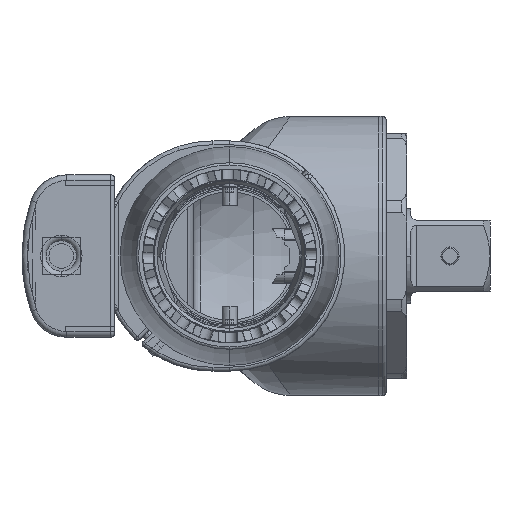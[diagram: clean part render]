
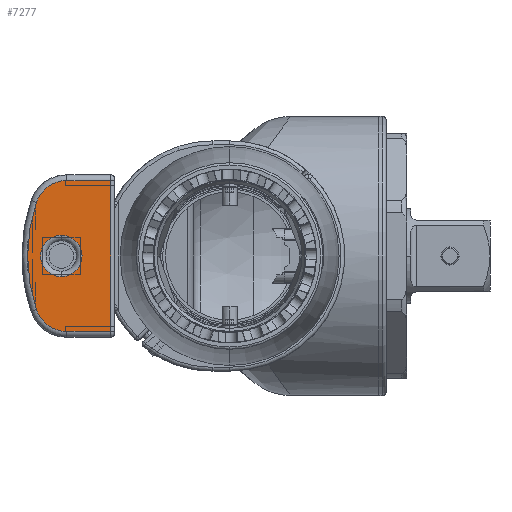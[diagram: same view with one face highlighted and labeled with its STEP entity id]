
A CAD part, left-side view. The second image highlights one B-rep face of the part: STEP entity #7277.
In plain terms, the highlighted planar face has unit normal (-1, 0, 0).
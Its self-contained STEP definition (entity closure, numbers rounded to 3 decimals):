
#7157 = VERTEX_POINT ( 'NONE', #18169 ) ;
#7159 = EDGE_CURVE ( 'NONE', #7160, #7157, #18168, .T. ) ;
#7160 = VERTEX_POINT ( 'NONE', #18163 ) ;
#7170 = VERTEX_POINT ( 'NONE', #18219 ) ;
#7172 = EDGE_CURVE ( 'NONE', #7188, #7170, #18217, .T. ) ;
#7188 = VERTEX_POINT ( 'NONE', #18285 ) ;
#7216 = EDGE_LOOP ( 'NONE', ( #7278, #7279 ) ) ;
#7220 = VERTEX_POINT ( 'NONE', #18475 ) ;
#7222 = EDGE_CURVE ( 'NONE', #7238, #7220, #18472, .T. ) ;
#7231 = VERTEX_POINT ( 'NONE', #18499 ) ;
#7238 = VERTEX_POINT ( 'NONE', #18543 ) ;
#7240 = EDGE_CURVE ( 'NONE', #7170, #7238, #18541, .T. ) ;
#7261 = ORIENTED_EDGE ( 'NONE', *, *, #7240, .T. ) ;
#7262 = ORIENTED_EDGE ( 'NONE', *, *, #7222, .T. ) ;
#7275 = EDGE_CURVE ( 'NONE', #7157, #7160, #18636, .T. ) ;
#7277 = ADVANCED_FACE ( 'NONE', ( #18692, #18691 ), #18671, .F. ) ;
#7278 = ORIENTED_EDGE ( 'NONE', *, *, #7159, .T. ) ;
#7279 = ORIENTED_EDGE ( 'NONE', *, *, #7275, .T. ) ;
#7280 = EDGE_LOOP ( 'NONE', ( #7281, #7282, #7285, #7287, #7261, #7262 ) ) ;
#7281 = ORIENTED_EDGE ( 'NONE', *, *, #7289, .T. ) ;
#7282 = ORIENTED_EDGE ( 'NONE', *, *, #7283, .T. ) ;
#7283 = EDGE_CURVE ( 'NONE', #7231, #7284, #18666, .T. ) ;
#7284 = VERTEX_POINT ( 'NONE', #18736 ) ;
#7285 = ORIENTED_EDGE ( 'NONE', *, *, #7286, .T. ) ;
#7286 = EDGE_CURVE ( 'NONE', #7284, #7188, #18734, .T. ) ;
#7287 = ORIENTED_EDGE ( 'NONE', *, *, #7172, .T. ) ;
#7289 = EDGE_CURVE ( 'NONE', #7220, #7231, #18730, .T. ) ;
#18163 = CARTESIAN_POINT ( 'NONE',  ( -263.3, 44.6, -5.5 ) ) ;
#18164 = DIRECTION ( 'NONE',  ( 0., 0., -1. ) ) ;
#18165 = DIRECTION ( 'NONE',  ( 1., 0., 0. ) ) ;
#18166 = CARTESIAN_POINT ( 'NONE',  ( -263.3, 44.6, 0. ) ) ;
#18167 = AXIS2_PLACEMENT_3D ( 'NONE', #18166, #18165, #18164 ) ;
#18168 = CIRCLE ( 'NONE', #18167, 5.5 ) ;
#18169 = CARTESIAN_POINT ( 'NONE',  ( -263.3, 44.6, 5.5 ) ) ;
#18214 = DIRECTION ( 'NONE',  ( 0., 1., 0. ) ) ;
#18215 = VECTOR ( 'NONE', #18214, 1000. ) ;
#18216 = CARTESIAN_POINT ( 'NONE',  ( -263.3, 30.5, 20. ) ) ;
#18217 = LINE ( 'NONE', #18216, #18215 ) ;
#18219 = CARTESIAN_POINT ( 'NONE',  ( -263.3, 43.114, 20. ) ) ;
#18285 = CARTESIAN_POINT ( 'NONE',  ( -263.3, 31.5, 20. ) ) ;
#18468 = DIRECTION ( 'NONE',  ( 0., 0., -1. ) ) ;
#18469 = DIRECTION ( 'NONE',  ( -1., 0., 0. ) ) ;
#18470 = CARTESIAN_POINT ( 'NONE',  ( -263.3, 9., 0. ) ) ;
#18471 = AXIS2_PLACEMENT_3D ( 'NONE', #18470, #18469, #18468 ) ;
#18472 = CIRCLE ( 'NONE', #18471, 44.5 ) ;
#18475 = CARTESIAN_POINT ( 'NONE',  ( -263.3, 51.168, -14.215 ) ) ;
#18499 = CARTESIAN_POINT ( 'NONE',  ( -263.3, 43.114, -20. ) ) ;
#18536 = DIRECTION ( 'NONE',  ( 0., 0., -1. ) ) ;
#18537 = DIRECTION ( 'NONE',  ( -1., 0., 0. ) ) ;
#18539 = CARTESIAN_POINT ( 'NONE',  ( -263.3, 43.114, 11.5 ) ) ;
#18540 = AXIS2_PLACEMENT_3D ( 'NONE', #18539, #18537, #18536 ) ;
#18541 = CIRCLE ( 'NONE', #18540, 8.5 ) ;
#18543 = CARTESIAN_POINT ( 'NONE',  ( -263.3, 51.168, 14.215 ) ) ;
#18636 = CIRCLE ( 'NONE', #18642, 5.5 ) ;
#18642 = AXIS2_PLACEMENT_3D ( 'NONE', #18696, #18695, #18694 ) ;
#18666 = LINE ( 'NONE', #18739, #18738 ) ;
#18667 = DIRECTION ( 'NONE',  ( 0., 0., -1. ) ) ;
#18668 = DIRECTION ( 'NONE',  ( 1., 0., 0. ) ) ;
#18669 = CARTESIAN_POINT ( 'NONE',  ( -263.3, 30.5, -21.5 ) ) ;
#18670 = AXIS2_PLACEMENT_3D ( 'NONE', #18669, #18668, #18667 ) ;
#18671 = PLANE ( 'NONE',  #18670 ) ;
#18691 = FACE_OUTER_BOUND ( 'NONE', #7280, .T. ) ;
#18692 = FACE_BOUND ( 'NONE', #7216, .T. ) ;
#18694 = DIRECTION ( 'NONE',  ( 0., 0., -1. ) ) ;
#18695 = DIRECTION ( 'NONE',  ( 1., 0., 0. ) ) ;
#18696 = CARTESIAN_POINT ( 'NONE',  ( -263.3, 44.6, 0. ) ) ;
#18723 = DIRECTION ( 'NONE',  ( 0., 0., -1. ) ) ;
#18726 = DIRECTION ( 'NONE',  ( -1., 0., 0. ) ) ;
#18728 = CARTESIAN_POINT ( 'NONE',  ( -263.3, 43.114, -11.5 ) ) ;
#18729 = AXIS2_PLACEMENT_3D ( 'NONE', #18728, #18726, #18723 ) ;
#18730 = CIRCLE ( 'NONE', #18729, 8.5 ) ;
#18731 = DIRECTION ( 'NONE',  ( 0., 0., 1. ) ) ;
#18732 = VECTOR ( 'NONE', #18731, 1000. ) ;
#18733 = CARTESIAN_POINT ( 'NONE',  ( -263.3, 31.5, -21.5 ) ) ;
#18734 = LINE ( 'NONE', #18733, #18732 ) ;
#18736 = CARTESIAN_POINT ( 'NONE',  ( -263.3, 31.5, -20. ) ) ;
#18737 = DIRECTION ( 'NONE',  ( 0., -1., 0. ) ) ;
#18738 = VECTOR ( 'NONE', #18737, 1000. ) ;
#18739 = CARTESIAN_POINT ( 'NONE',  ( -263.3, 31.5, -20. ) ) ;
